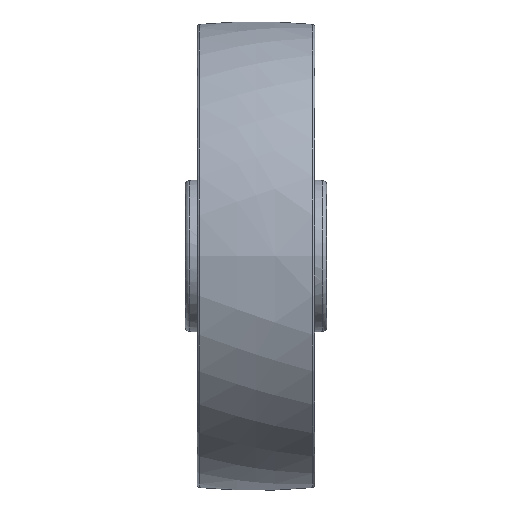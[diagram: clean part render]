
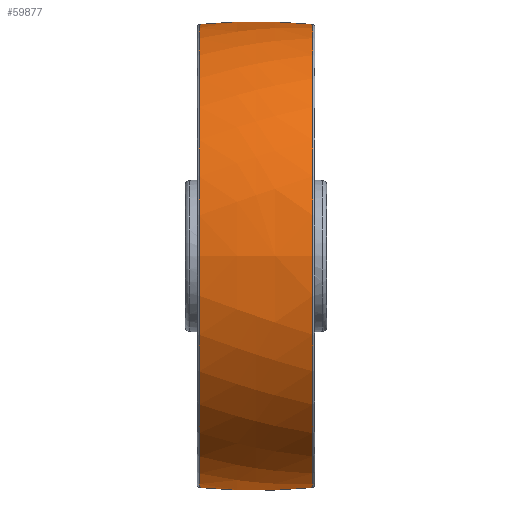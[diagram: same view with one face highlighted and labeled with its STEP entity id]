
A CAD part, top view. The second image highlights one B-rep face of the part: STEP entity #59877.
In plain terms, the highlighted free-form (B-spline) face has degree [3, 3] with [7, 4] control points.
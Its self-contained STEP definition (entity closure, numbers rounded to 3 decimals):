
#585 = CARTESIAN_POINT ( 'NONE',  ( 24.096, -98.336, 0. ) ) ;
#960 = CARTESIAN_POINT ( 'NONE',  ( 24.096, 98.336, 0. ) ) ;
#1568 = CARTESIAN_POINT ( 'NONE',  ( -25.057, 98.047, -6.169 ) ) ;
#3212 = CARTESIAN_POINT ( 'NONE',  ( 8.38, 61.491, 99.921 ) ) ;
#3543 = CARTESIAN_POINT ( 'NONE',  ( -8.38, -61.491, 99.921 ) ) ;
#3775 = CIRCLE ( 'NONE', #49666, 250. ) ;
#4975 = VERTEX_POINT ( 'NONE', #54591 ) ;
#6112 = DIRECTION ( 'NONE',  ( -1., 0., 0. ) ) ;
#8215 = CARTESIAN_POINT ( 'NONE',  ( 8.38, 99.724, -6.274 ) ) ;
#8404 = DIRECTION ( 'NONE',  ( 0.096, -0.995, 0. ) ) ;
#8544 = CARTESIAN_POINT ( 'NONE',  ( 8.38, -99.724, -6.274 ) ) ;
#9477 = DIRECTION ( 'NONE',  ( -1., 0., 0. ) ) ;
#9543 = CARTESIAN_POINT ( 'NONE',  ( -8.38, -99.724, -6.274 ) ) ;
#12015 = EDGE_CURVE ( 'NONE', #25497, #33629, #13510, .T. ) ;
#13176 = ORIENTED_EDGE ( 'NONE', *, *, #12015, .T. ) ;
#13510 = CIRCLE ( 'NONE', #58323, 250. ) ;
#13558 = CIRCLE ( 'NONE', #31668, 98.336 ) ;
#13891 = CARTESIAN_POINT ( 'NONE',  ( 8.38, -103.585, 55.096 ) ) ;
#14083 = CARTESIAN_POINT ( 'NONE',  ( 0., 150.5, 0. ) ) ;
#14882 = CARTESIAN_POINT ( 'NONE',  ( -25.057, 0., 98.241 ) ) ;
#15829 = DIRECTION ( 'NONE',  ( 0., 0., 1. ) ) ;
#16455 = DIRECTION ( 'NONE',  ( 0., -1., 0. ) ) ;
#17809 = CARTESIAN_POINT ( 'NONE',  ( -24.096, 98.336, 0. ) ) ;
#19218 = CARTESIAN_POINT ( 'NONE',  ( 25.057, -101.843, 54.17 ) ) ;
#19872 = ORIENTED_EDGE ( 'NONE', *, *, #24963, .F. ) ;
#23545 = CARTESIAN_POINT ( 'NONE',  ( -8.38, 61.491, 99.921 ) ) ;
#24149 = CARTESIAN_POINT ( 'NONE',  ( 24.096, 0., 0. ) ) ;
#24218 = CARTESIAN_POINT ( 'NONE',  ( 25.057, 0., 98.241 ) ) ;
#24963 = EDGE_CURVE ( 'NONE', #4975, #33629, #13558, .T. ) ;
#25497 = VERTEX_POINT ( 'NONE', #960 ) ;
#28574 = CARTESIAN_POINT ( 'NONE',  ( 25.057, 98.047, -6.169 ) ) ;
#29234 = CARTESIAN_POINT ( 'NONE',  ( -25.057, -101.843, 54.17 ) ) ;
#31668 = AXIS2_PLACEMENT_3D ( 'NONE', #32482, #6112, #16455 ) ;
#32482 = CARTESIAN_POINT ( 'NONE',  ( -24.096, 0., 0. ) ) ;
#33588 = CARTESIAN_POINT ( 'NONE',  ( -8.38, 99.724, -6.274 ) ) ;
#33629 = VERTEX_POINT ( 'NONE', #17809 ) ;
#34587 = CARTESIAN_POINT ( 'NONE',  ( -8.38, 103.585, 55.096 ) ) ;
#34673 = VERTEX_POINT ( 'NONE', #585 ) ;
#35250 = CARTESIAN_POINT ( 'NONE',  ( 25.057, -60.457, 98.241 ) ) ;
#38620 = FACE_OUTER_BOUND ( 'NONE', #40283, .T. ) ;
#39940 = CARTESIAN_POINT ( 'NONE',  ( -25.057, 101.843, 54.17 ) ) ;
#40211 = DIRECTION ( 'NONE',  ( 0., -1., 0. ) ) ;
#40277 = CARTESIAN_POINT ( 'NONE',  ( -8.38, 0., 99.921 ) ) ;
#40283 = EDGE_LOOP ( 'NONE', ( #57724, #47185, #13176, #19872 ) ) ;
#41115 = AXIS2_PLACEMENT_3D ( 'NONE', #24149, #9477, #40211 ) ;
#43358 =( BOUNDED_SURFACE ( )  B_SPLINE_SURFACE ( 3, 3, ( 
 ( #1568, #33588, #8215, #28574 ),
 ( #39940, #34587, #44290, #60650 ),
 ( #60317, #23545, #3212, #54643 ),
 ( #14882, #40277, #59654, #24218 ),
 ( #49319, #3543, #44627, #35250 ),
 ( #29234, #45286, #13891, #19218 ),
 ( #65640, #9543, #8544, #64990 ) ),
 .UNSPECIFIED., .F., .F., .T. ) 
 B_SPLINE_SURFACE_WITH_KNOTS ( ( 4, 3, 4 ),
 ( 4, 4 ),
 ( 0., 1., 2. ),
 ( 0., 1. ),
 .UNSPECIFIED. ) 
 GEOMETRIC_REPRESENTATION_ITEM ( )  RATIONAL_B_SPLINE_SURFACE ( (
 ( 1.19, 1.186, 1.186, 1.19),
 ( 0.94, 0.937, 0.937, 0.94),
 ( 0.94, 0.937, 0.937, 0.94),
 ( 1.19, 1.186, 1.186, 1.19),
 ( 0.94, 0.937, 0.937, 0.94),
 ( 0.94, 0.937, 0.937, 0.94),
 ( 1.19, 1.186, 1.186, 1.19) ) ) 
 REPRESENTATION_ITEM ( '' )  SURFACE ( )  );
#44290 = CARTESIAN_POINT ( 'NONE',  ( 8.38, 103.585, 55.096 ) ) ;
#44627 = CARTESIAN_POINT ( 'NONE',  ( 8.38, -61.491, 99.921 ) ) ;
#45286 = CARTESIAN_POINT ( 'NONE',  ( -8.38, -103.585, 55.096 ) ) ;
#47185 = ORIENTED_EDGE ( 'NONE', *, *, #56413, .T. ) ;
#49319 = CARTESIAN_POINT ( 'NONE',  ( -25.057, -60.457, 98.241 ) ) ;
#49666 = AXIS2_PLACEMENT_3D ( 'NONE', #14083, #55161, #8404 ) ;
#54591 = CARTESIAN_POINT ( 'NONE',  ( -24.096, -98.336, 0. ) ) ;
#54643 = CARTESIAN_POINT ( 'NONE',  ( 25.057, 60.457, 98.241 ) ) ;
#55161 = DIRECTION ( 'NONE',  ( 0., 0., -1. ) ) ;
#56413 = EDGE_CURVE ( 'NONE', #34673, #25497, #61369, .T. ) ;
#56581 = DIRECTION ( 'NONE',  ( 0.096, 0.995, 0. ) ) ;
#56818 = EDGE_CURVE ( 'NONE', #34673, #4975, #3775, .T. ) ;
#57724 = ORIENTED_EDGE ( 'NONE', *, *, #56818, .F. ) ;
#58323 = AXIS2_PLACEMENT_3D ( 'NONE', #61597, #15829, #56581 ) ;
#59654 = CARTESIAN_POINT ( 'NONE',  ( 8.38, 0., 99.921 ) ) ;
#59877 = ADVANCED_FACE ( 'NONE', ( #38620 ), #43358, .T. ) ;
#60317 = CARTESIAN_POINT ( 'NONE',  ( -25.057, 60.457, 98.241 ) ) ;
#60650 = CARTESIAN_POINT ( 'NONE',  ( 25.057, 101.843, 54.17 ) ) ;
#61369 = CIRCLE ( 'NONE', #41115, 98.336 ) ;
#61597 = CARTESIAN_POINT ( 'NONE',  ( 0., -150.5, 0. ) ) ;
#64990 = CARTESIAN_POINT ( 'NONE',  ( 25.057, -98.047, -6.169 ) ) ;
#65640 = CARTESIAN_POINT ( 'NONE',  ( -25.057, -98.047, -6.169 ) ) ;
